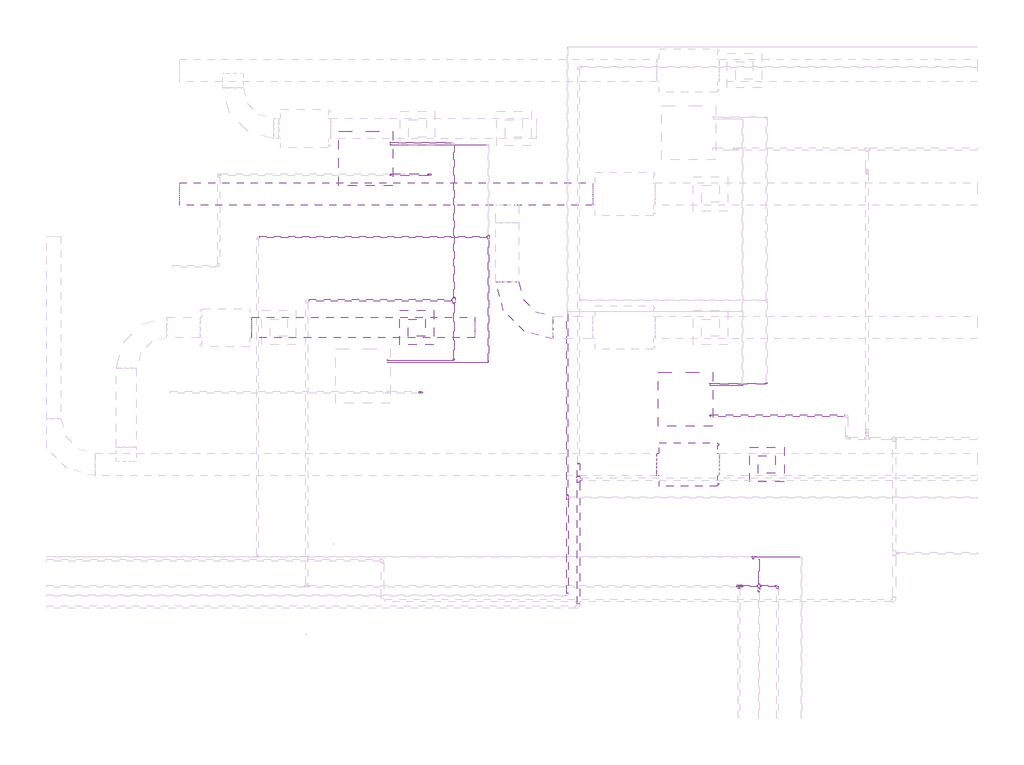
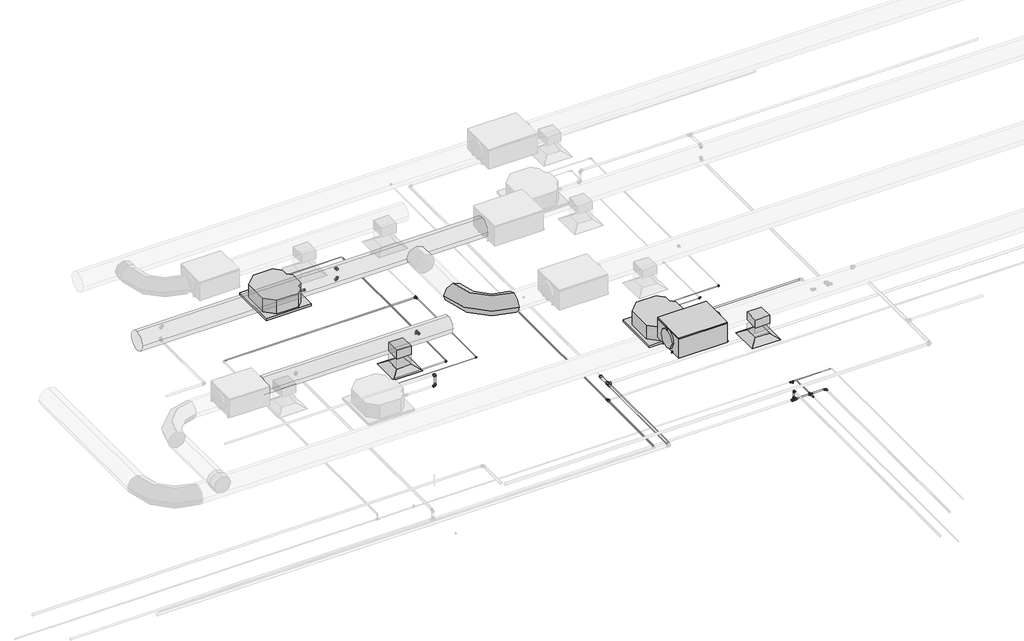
# One storey, part 15 of 21: 37 pipe fittings, 25 pipe segments, 4 duct segments, 3 duct fittings, 3 proxies, 2 air terminals.
"""IFC4 building model written with IfcOpenShell, lengths in millimetres."""

from ifc_helpers import new_model, si_unit, point, frame, frame_2d, origin, place, context, project, spatial, polyline, circle_curve, trimmed, segment, composite_curve, outline, extrude, transform, mapped, element, save
from components import air_terminal_ff221211, mechanical_equipment_53173f38, fh_fh_400_6e0c7af0, duct_fitting_95c1ddea, duct_fitting_550a0fe9, duct_fitting_2_d_33ab650d, pipe_fitting_e2d793b1, pipe_fitting_535881cf, pipe_fitting_752db109, pipe_fitting_630650c0, pipe_fitting_3f76be59, pipe_fitting_e567efff, pipe_fitting_aa3f564d, pipe_fitting_d2aaae93, pipe_fitting_8f6b33cf, pipe_fitting_65e16ea6, pipe_fitting_e6d02d16, pipe_fitting_418687aa, pipe_fitting_5f661cd3, pipe_fitting_8aefc26a, pipe_fitting_3ec2dfac, pipe_fitting_fefc82c8, pipe_fitting_c900cfc2, pipe_fitting_16c020f5, pipe_fitting_09966660, pipe_fitting_501e5992, pipe_fitting_59d1f3e3, pipe_fitting_648138cd, pipe_fitting_58ab9b66, pipe_fitting_bf9d9dba, pipe_fitting_af483176

model = new_model("IFC4")

# Units and contexts
model_context = context("Model", 3, world=origin())
ifc_project = project(units=[si_unit("LENGTHUNIT", "METRE", prefix="MILLI")], contexts=[model_context])

# Site, building, storey
site = spatial("IfcSite", under=ifc_project)
building = spatial("IfcBuilding", under=site)
storey = spatial("IfcBuildingStorey", under=building, Name="Nível 1", Elevation=0.0)

# Air terminals
placement = place(None, origin())
air_terminal_shape = air_terminal_ff221211(model_context)
element("IfcAirTerminal", 1, ObjectType="M_Difusor de retorno : 600 x 600 Face 300 x 300 Conexão", at=placement, inside=storey, context=model_context, shape_type="MappedRepresentation", body=[
    mapped(air_terminal_shape, transform((7561.4781645, 2283.4261027, 3000.0), x_axis=(0.0, -1.0, 0.0), y_axis=(1.0, 0.0, 0.0), z_axis=(0.0, 0.0, 1.0))),
])
element("IfcAirTerminal", 2, ObjectType="M_Difusor de retorno : 600 x 600 Face 300 x 300 Conexão", at=placement, inside=storey, context=model_context, shape_type="MappedRepresentation", body=[
    mapped(air_terminal_shape, transform((1430.9255464, 4681.9327662, 3000.0), x_axis=(0.0, -1.0, 0.0), y_axis=(1.0, 0.0, 0.0), z_axis=(0.0, 0.0, 1.0))),
])

# Proxies
mechanical_equipment_shape = mechanical_equipment_53173f38(model_context)
element("IfcBuildingElementProxy", 3, Name="Midea_VRF_Indoor_4-way Cassette_MI-90(100,112,140)Q4_DHN1-D (2nd DC) : MI2-100Q4DHN1", ObjectType="Midea_VRF_Indoor_4-way Cassette_MI-90(100,112,140)Q4_DHN1-D (2nd DC) : MI2-100Q4DHN1", at=placement, inside=storey, context=model_context, shape_type="MappedRepresentation", body=[
    mapped(mechanical_equipment_shape, transform((535.9443928, 7643.6930389, 3000.0), x_axis=(1.0, 0.0, 0.0), y_axis=(0.0, 1.0, 0.0), z_axis=(0.0, 0.0, 1.0))),
])
element("IfcBuildingElementProxy", 4, Name="Midea_VRF_Indoor_4-way Cassette_MI-90(100,112,140)Q4_DHN1-D (2nd DC) : MI2-112Q4DHN1", ObjectType="Midea_VRF_Indoor_4-way Cassette_MI-90(100,112,140)Q4_DHN1-D (2nd DC) : MI2-112Q4DHN1", at=placement, inside=storey, context=model_context, shape_type="MappedRepresentation", body=[
    mapped(mechanical_equipment_shape, transform((6136.4781645, 3426.4200133, 3000.0), x_axis=(1.0, 0.0, 0.0), y_axis=(0.0, 1.0, 0.0), z_axis=(0.0, 0.0, 1.0))),
])
fh_fh_400_shape = fh_fh_400_6e0c7af0(model_context)
element("IfcBuildingElementProxy", 5, Name="FH : FH 400", ObjectType="FH : FH 400", at=placement, inside=storey, context=model_context, shape_type="MappedRepresentation", body=[
    mapped(fh_fh_400_shape, transform((6183.0801877, 2283.4261027, 3400.0), x_axis=(0.0, 1.0, 0.0), y_axis=(-1.0, 0.0, 0.0), z_axis=(0.0, 0.0, 1.0))),
])

# Duct fittings
duct_fitting_shape = duct_fitting_95c1ddea(model_context)
element("IfcDuctFitting", 6, ObjectType="M_Encaixe de duto retangular : Padrão", at=placement, inside=storey, context=model_context, shape_type="MappedRepresentation", body=[
    mapped(duct_fitting_shape, transform((7561.4781645, 2283.4261027, 3421.0), x_axis=(0.0, 0.0, -1.0), y_axis=(-1.0, 0.0, 0.0), z_axis=(0.0, 1.0, 0.0))),
])
duct_fitting_2_shape = duct_fitting_550a0fe9(model_context)
element("IfcDuctFitting", 7, ObjectType="M_Encaixe de duto retangular : Padrão", at=placement, inside=storey, context=model_context, shape_type="MappedRepresentation", body=[
    mapped(duct_fitting_2_shape, transform((1430.9255464, 4681.9327662, 3427.5), x_axis=(0.0, 0.0, -1.0), y_axis=(-1.0, 0.0, 0.0), z_axis=(0.0, 1.0, 0.0))),
])
duct_fitting_2_d_shape = duct_fitting_2_d_33ab650d(model_context)
element("IfcDuctFitting", 8, ObjectType="M_Cotovelo redondo : 2 D", at=placement, inside=storey, context=model_context, shape_type="MappedRepresentation", body=[
    mapped(duct_fitting_2_d_shape, transform((3013.3899244, 4681.9327662, 3621.0), x_axis=(0.0, -1.0, 0.0), y_axis=(1.0, 0.0, 0.0), z_axis=(0.0, 0.0, 1.0))),
])

# Duct segments
element("IfcDuctSegment", 9, ObjectType="Torneiras / Raio curto", at=placement, inside=storey, context=model_context, shape_type="SweptSolid", body=[
    extrude(outline(composite_curve([segment(trimmed(circle_curve(frame_2d((7022.5342821, 3621.0)), 200.0), [point((7222.5342821, 3621.0))], [point((7022.5342821, 3421.0))], False, "CARTESIAN"), True, "CONTINUOUS"), segment(trimmed(circle_curve(frame_2d((7022.5342821, 3621.0)), 200.0), [point((7022.5342821, 3421.0))], [point((6822.5342821, 3621.0))], False, "CARTESIAN"), True, "CONTINUOUS"), segment(trimmed(circle_curve(frame_2d((7022.5342821, 3621.0)), 200.0), [point((6822.5342821, 3621.0))], [point((7022.5342821, 3821.0))], False, "CARTESIAN"), True, "CONTINUOUS"), segment(trimmed(circle_curve(frame_2d((7022.5342821, 3621.0)), 200.0), [point((7022.5342821, 3821.0))], [point((7222.5342821, 3621.0))], False, "CARTESIAN"), True, "CONTINUOUS")], self_intersect=False)), frame((-2725.4857997, 0.0, 0.0), z_axis=(1.0, 0.0, 0.0), x_axis=(0.0, 1.0, 0.0)), (0.0, 0.0, 1.0), 7238.8757241),
])
element("IfcDuctSegment", 10, ObjectType="Raios cotovelos / torneiras", at=placement, inside=storey, context=model_context, shape_type="SweptSolid", body=[
    extrude(outline(polyline([(7711.4781645, 2133.4261027), (7411.4781645, 2133.4261027), (7411.4781645, 2433.4261027), (7711.4781645, 2433.4261027), (7711.4781645, 2133.4261027)])), frame((0.0, 0.0, 3101.6), z_axis=(0.0, 0.0, 1.0), x_axis=(1.0, 0.0, 0.0)), (0.0, 0.0, 1.0), 217.8),
])
element("IfcDuctSegment", 11, ObjectType="Torneiras / Raio curto", at=placement, inside=storey, context=model_context, shape_type="SweptSolid", body=[
    extrude(outline(composite_curve([segment(trimmed(circle_curve(frame_2d((4681.9327662, 3605.0)), 177.5), [point((4504.4327662, 3605.0))], [point((4681.9327662, 3782.5))], False, "CARTESIAN"), True, "CONTINUOUS"), segment(trimmed(circle_curve(frame_2d((4681.9327662, 3605.0)), 177.5), [point((4681.9327662, 3782.5))], [point((4859.4327662, 3605.0))], False, "CARTESIAN"), True, "CONTINUOUS"), segment(trimmed(circle_curve(frame_2d((4681.9327662, 3605.0)), 177.5), [point((4859.4327662, 3605.0))], [point((4681.9327662, 3427.5))], False, "CARTESIAN"), True, "CONTINUOUS"), segment(trimmed(circle_curve(frame_2d((4681.9327662, 3605.0)), 177.5), [point((4681.9327662, 3427.5))], [point((4504.4327662, 3605.0))], False, "CARTESIAN"), True, "CONTINUOUS")], self_intersect=False)), frame((-1458.9060918, 0.0, 0.0), z_axis=(1.0, 0.0, 0.0), x_axis=(0.0, 1.0, 0.0)), (0.0, 0.0, 1.0), 3900.0),
])
element("IfcDuctSegment", 12, ObjectType="Raios cotovelos / torneiras", at=placement, inside=storey, context=model_context, shape_type="SweptSolid", body=[
    extrude(outline(polyline([(1580.9255464, 4531.9327662), (1280.9255464, 4531.9327662), (1280.9255464, 4831.9327662), (1580.9255464, 4831.9327662), (1580.9255464, 4531.9327662)])), frame((0.0, 0.0, 3101.6), z_axis=(0.0, 0.0, 1.0), x_axis=(1.0, 0.0, 0.0)), (0.0, 0.0, 1.0), 224.3),
])

# Pipe fittings
pipe_fitting_shape = pipe_fitting_e2d793b1(model_context)
element("IfcPipeFitting", 13, ObjectType="Bucha de redução reta - Soldada - CU : Padrão", at=placement, inside=storey, context=model_context, shape_type="MappedRepresentation", body=[
    mapped(pipe_fitting_shape, transform((960.9443928, 7358.6930389, 3252.3085101), x_axis=(1.0, 0.0, 0.0), y_axis=(0.0, 1.0, 0.0), z_axis=(0.0, 0.0, 1.0))),
])
element("IfcPipeFitting", 14, ObjectType="Bucha de redução reta - Soldada - CU : Padrão", at=placement, inside=storey, context=model_context, shape_type="MappedRepresentation", body=[
    mapped(pipe_fitting_shape, transform((6561.4781645, 3141.4200133, 3252.3085101), x_axis=(1.0, 0.0, 0.0), y_axis=(0.0, 1.0, 0.0), z_axis=(0.0, 0.0, 1.0))),
])
pipe_fitting_2_shape = pipe_fitting_535881cf(model_context)
element("IfcPipeFitting", 15, ObjectType="Cotovelo - Soldado - CU : Padrão", at=placement, inside=storey, context=model_context, shape_type="MappedRepresentation", body=[
    mapped(pipe_fitting_2_shape, transform((1512.5410392, 3547.7051078, 3500.0), x_axis=(0.0, 0.0, 1.0), y_axis=(-1.0, 0.0, 0.0), z_axis=(0.0, -1.0, 0.0))),
])
element("IfcPipeFitting", 16, ObjectType="Cotovelo - Soldado - CU : Padrão", at=placement, inside=storey, context=model_context, shape_type="MappedRepresentation", body=[
    mapped(pipe_fitting_2_shape, transform((1660.9443928, 7358.6930389, 3500.0), x_axis=(0.0, 0.0, 1.0), y_axis=(-1.0, 0.0, 0.0), z_axis=(0.0, -1.0, 0.0))),
])
pipe_fitting_3_shape = pipe_fitting_752db109(model_context)
element("IfcPipeFitting", 17, ObjectType="Cotovelo - Soldado - CU : Padrão", at=placement, inside=storey, context=model_context, shape_type="MappedRepresentation", body=[
    mapped(pipe_fitting_3_shape, transform((1512.5410392, 3547.7051078, 3252.3), x_axis=(0.9999999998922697, 0.0, -1.4678579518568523e-05), y_axis=(1.4678579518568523e-05, 0.0, 0.9999999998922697), z_axis=(0.0, -1.0, 0.0))),
])
pipe_fitting_4_shape = pipe_fitting_630650c0(model_context)
element("IfcPipeFitting", 18, ObjectType="Cotovelo - Soldado - CU : Padrão", at=placement, inside=storey, context=model_context, shape_type="MappedRepresentation", body=[
    mapped(pipe_fitting_4_shape, transform((1660.9443928, 7358.6930389, 3252.3), x_axis=(0.9999999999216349, 0.0, -1.2519202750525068e-05), y_axis=(1.2519202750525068e-05, 0.0, 0.9999999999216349), z_axis=(0.0, -1.0, 0.0))),
])
pipe_fitting_5_shape = pipe_fitting_3f76be59(model_context)
element("IfcPipeFitting", 19, ObjectType="Tê - Soldado - CU : Padrão", at=placement, inside=storey, context=model_context, shape_type="MappedRepresentation", body=[
    mapped(pipe_fitting_5_shape, transform((4261.4781645, 2025.308811, 3252.3), x_axis=(0.0, -1.0, 0.0), y_axis=(-0.9999998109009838, 0.0, 0.0006149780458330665), z_axis=(-0.0006149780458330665, 0.0, -0.9999998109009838))),
])
pipe_fitting_6_shape = pipe_fitting_e567efff(model_context)
element("IfcPipeFitting", 20, ObjectType="Bucha de redução reta - Soldada - CU : Padrão", at=placement, inside=storey, context=model_context, shape_type="MappedRepresentation", body=[
    mapped(pipe_fitting_6_shape, transform((2688.5154392, 6301.3866082, 3146.844766), x_axis=(0.0, 0.9999999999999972, -7.527757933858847e-08), y_axis=(-0.999999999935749, 0.0, 1.1335879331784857e-05), z_axis=(1.133587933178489e-05, 7.52775793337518e-08, 0.9999999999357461))),
])
pipe_fitting_7_shape = pipe_fitting_aa3f564d(model_context)
element("IfcPipeFitting", 21, ObjectType="Tê - Soldado - CU : Padrão", at=placement, inside=storey, context=model_context, shape_type="MappedRepresentation", body=[
    mapped(pipe_fitting_7_shape, transform((7074.9048328, 153.7608365, 3052.3), x_axis=(-1.0, 0.0, 0.0), y_axis=(0.0, 0.0, -1.0), z_axis=(0.0, -1.0, 0.0))),
])
element("IfcPipeFitting", 22, ObjectType="Tê - Soldado - CU : Padrão", at=placement, inside=storey, context=model_context, shape_type="MappedRepresentation", body=[
    mapped(pipe_fitting_7_shape, transform((2081.0820392, 5160.3854214, 3252.3003522), x_axis=(0.0, -0.999999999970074, 7.736412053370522e-06), y_axis=(0.9999999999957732, -2.2494228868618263e-11, -2.9075789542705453e-06), z_axis=(2.907578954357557e-06, 7.73641205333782e-06, 0.999999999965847))),
])
pipe_fitting_8_shape = pipe_fitting_d2aaae93(model_context)
element("IfcPipeFitting", 23, ObjectType="Bucha de redução reta - Soldada - CU : Padrão", at=placement, inside=storey, context=model_context, shape_type="MappedRepresentation", body=[
    mapped(pipe_fitting_8_shape, transform((2081.0820392, 5205.9159214, 3252.3), x_axis=(0.0, 0.999999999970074, -7.736412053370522e-06), y_axis=(-0.9999999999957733, 2.2494228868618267e-11, 2.9075789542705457e-06), z_axis=(2.9075789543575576e-06, 7.73641205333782e-06, 0.9999999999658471))),
])
element("IfcPipeFitting", 24, ObjectType="Bucha de redução reta - Soldada - CU : Padrão", at=placement, inside=storey, context=model_context, shape_type="MappedRepresentation", body=[
    mapped(pipe_fitting_8_shape, transform((2081.0820392, 5114.8549214, 3252.3007045), x_axis=(0.0, -0.999999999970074, 7.736412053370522e-06), y_axis=(0.9999999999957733, -2.2494228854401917e-11, -2.9075789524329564e-06), z_axis=(2.9075789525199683e-06, 7.73641205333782e-06, 0.9999999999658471))),
])
pipe_fitting_9_shape = pipe_fitting_8f6b33cf(model_context)
element("IfcPipeFitting", 25, ObjectType="Bucha de redução reta - Soldada - CU : Padrão", at=placement, inside=storey, context=model_context, shape_type="MappedRepresentation", body=[
    mapped(pipe_fitting_9_shape, transform((7074.9048328, 153.7608365, 3097.891), x_axis=(0.0, 0.0, 1.0), y_axis=(1.0, 0.0, 0.0), z_axis=(0.0, 1.0, 0.0))),
])
pipe_fitting_10_shape = pipe_fitting_65e16ea6(model_context)
element("IfcPipeFitting", 26, ObjectType="Bucha de redução reta - Soldada - CU : Padrão", at=placement, inside=storey, context=model_context, shape_type="MappedRepresentation", body=[
    mapped(pipe_fitting_10_shape, transform((7120.4353328, 153.7608365, 3052.3), x_axis=(1.0, 0.0, 0.0), y_axis=(0.0, 1.0, 0.0), z_axis=(0.0, 0.0, 1.0))),
])
pipe_fitting_11_shape = pipe_fitting_e6d02d16(model_context)
element("IfcPipeFitting", 27, ObjectType="Bucha de redução reta - Soldada - CU : Padrão", at=placement, inside=storey, context=model_context, shape_type="MappedRepresentation", body=[
    mapped(pipe_fitting_11_shape, transform((7324.7363367, 635.9191084, 3046.8), x_axis=(0.0, -1.0, 0.0), y_axis=(1.0, 0.0, 0.0), z_axis=(0.0, 0.0, 1.0))),
])
element("IfcPipeFitting", 28, ObjectType="Bucha de redução reta - Soldada - CU : Padrão", at=placement, inside=storey, context=model_context, shape_type="MappedRepresentation", body=[
    mapped(pipe_fitting_11_shape, transform((7354.9315867, 666.0796084, 3046.8), x_axis=(1.0, 0.0, 0.0), y_axis=(0.0, 1.0, 0.0), z_axis=(0.0, 0.0, 1.0))),
])
pipe_fitting_12_shape = pipe_fitting_418687aa(model_context)
element("IfcPipeFitting", 29, ObjectType="Cruzeta - Soldada - CU : Padrão", at=placement, inside=storey, context=model_context, shape_type="MappedRepresentation", body=[
    mapped(pipe_fitting_12_shape, transform((7424.7363367, 153.755765, 3052.3), x_axis=(-1.0, 0.0, 0.0), y_axis=(0.0, 0.9999994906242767, -0.0010093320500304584), z_axis=(0.0, -0.0010093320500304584, -0.9999994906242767))),
])
pipe_fitting_13_shape = pipe_fitting_5f661cd3(model_context)
element("IfcPipeFitting", 30, ObjectType="Bucha de redução reta - Soldada - CU : Padrão", at=placement, inside=storey, context=model_context, shape_type="MappedRepresentation", body=[
    mapped(pipe_fitting_13_shape, transform((7424.7363367, 188.2357475, 3052.2651982), x_axis=(0.0, 0.9999994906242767, -0.0010093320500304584), y_axis=(-1.0000000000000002, 0.0, 0.0), z_axis=(0.0, 0.0010093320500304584, 0.9999994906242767))),
])
element("IfcPipeFitting", 31, ObjectType="Bucha de redução reta - Soldada - CU : Padrão", at=placement, inside=storey, context=model_context, shape_type="MappedRepresentation", body=[
    mapped(pipe_fitting_13_shape, transform((7424.7363367, 57.3068347, 3052.397349), x_axis=(0.0, -0.9999994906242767, 0.0010093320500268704), y_axis=(1.0000000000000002, 0.0, 0.0), z_axis=(0.0, 0.0010093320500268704, 0.9999994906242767))),
])
pipe_fitting_14_shape = pipe_fitting_8aefc26a(model_context)
element("IfcPipeFitting", 32, ObjectType="Tê - Soldado - CU : Padrão", at=placement, inside=storey, context=model_context, shape_type="MappedRepresentation", body=[
    mapped(pipe_fitting_14_shape, transform((2688.5154392, 6266.0796082, 3146.8447687), x_axis=(0.0, -0.9999999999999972, 7.527757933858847e-08), y_axis=(0.9999999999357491, 0.0, -1.1335879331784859e-05), z_axis=(1.1335879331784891e-05, 7.52775793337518e-08, 0.9999999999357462))),
])
element("IfcPipeFitting", 33, ObjectType="Tê - Soldado - CU : Padrão", at=placement, inside=storey, context=model_context, shape_type="MappedRepresentation", body=[
    mapped(pipe_fitting_14_shape, transform((4067.8281628, 1706.2287572, 3146.8), x_axis=(0.0, -1.0, 0.0), y_axis=(-1.0, 0.0, 0.0), z_axis=(0.0, 0.0, -1.0))),
])
pipe_fitting_15_shape = pipe_fitting_3ec2dfac(model_context)
element("IfcPipeFitting", 34, ObjectType="Bucha de redução reta - Soldada - CU : Padrão", at=placement, inside=storey, context=model_context, shape_type="MappedRepresentation", body=[
    mapped(pipe_fitting_15_shape, transform((4261.4781645, 2294.0534778, 3252.3), x_axis=(0.0, 1.0, 0.0), y_axis=(-1.0, 0.0, 0.0), z_axis=(0.0, 0.0, 1.0))),
])
pipe_fitting_16_shape = pipe_fitting_fefc82c8(model_context)
element("IfcPipeFitting", 35, ObjectType="Cotovelo - Soldado - CU : Padrão", at=placement, inside=storey, context=model_context, shape_type="MappedRepresentation", body=[
    mapped(pipe_fitting_16_shape, transform((7747.1766922, 153.7608365, 3052.3), x_axis=(0.0, 1.0, 0.0), y_axis=(-1.0, 0.0, 0.0), z_axis=(0.0, 0.0, 1.0))),
])
element("IfcPipeFitting", 36, ObjectType="Cotovelo - Soldado - CU : Padrão", at=placement, inside=storey, context=model_context, shape_type="MappedRepresentation", body=[
    mapped(pipe_fitting_16_shape, transform((7074.9048355, 153.7608365, 3252.7945252), x_axis=(0.0, 0.0, 1.0), y_axis=(0.0, -1.0, 0.0), z_axis=(1.0, 0.0, 0.0))),
])
pipe_fitting_17_shape = pipe_fitting_c900cfc2(model_context)
element("IfcPipeFitting", 37, ObjectType="Bucha de redução reta - Soldada - CU : Padrão", at=placement, inside=storey, context=model_context, shape_type="MappedRepresentation", body=[
    mapped(pipe_fitting_17_shape, transform((960.9443928, 7916.9038526, 3252.3085101), x_axis=(1.0, 0.0, 0.0), y_axis=(0.0, 1.0, 0.0), z_axis=(0.0, 0.0, 1.0))),
])
pipe_fitting_18_shape = pipe_fitting_16c020f5(model_context)
element("IfcPipeFitting", 38, ObjectType="Cotovelo - Soldado - CU : Padrão", at=placement, inside=storey, context=model_context, shape_type="MappedRepresentation", body=[
    mapped(pipe_fitting_18_shape, transform((2081.0820392, 4105.9159214, 3252.3085101), x_axis=(1.0, 0.0, 0.0), y_axis=(0.0, 0.9999999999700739, -7.736412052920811e-06), z_axis=(0.0, 7.736412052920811e-06, 0.9999999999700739))),
])
element("IfcPipeFitting", 39, ObjectType="Cotovelo - Soldado - CU : Padrão", at=placement, inside=storey, context=model_context, shape_type="MappedRepresentation", body=[
    mapped(pipe_fitting_18_shape, transform((7561.4781645, 3699.630827, 3252.3085101), x_axis=(0.9999999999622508, 0.0, -8.688993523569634e-06), y_axis=(0.0, 1.0000000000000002, 0.0), z_axis=(8.688993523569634e-06, 0.0, 0.9999999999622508))),
])
pipe_fitting_19_shape = pipe_fitting_09966660(model_context)
element("IfcPipeFitting", 40, ObjectType="Tê - Soldado - CU : Padrão", at=placement, inside=storey, context=model_context, shape_type="MappedRepresentation", body=[
    mapped(pipe_fitting_19_shape, transform((7324.7363367, 666.0796084, 3046.8), x_axis=(-1.0, 0.0, 0.0), y_axis=(0.0, 1.0, 0.0), z_axis=(0.0, 0.0, -1.0))),
])
pipe_fitting_20_shape = pipe_fitting_501e5992(model_context)
element("IfcPipeFitting", 41, ObjectType="Bucha de redução reta - Soldada - CU : Padrão", at=placement, inside=storey, context=model_context, shape_type="MappedRepresentation", body=[
    mapped(pipe_fitting_20_shape, transform((925.1999392, 4105.9159214, 3252.3085101), x_axis=(-1.0, 0.0, 0.0), y_axis=(0.0, -1.0, 0.0), z_axis=(0.0, 0.0, 1.0))),
])
element("IfcPipeFitting", 42, ObjectType="Bucha de redução reta - Soldada - CU : Padrão", at=placement, inside=storey, context=model_context, shape_type="MappedRepresentation", body=[
    mapped(pipe_fitting_20_shape, transform((6574.1370645, 3699.630827, 3252.3085101), x_axis=(-0.9999999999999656, 0.0, -2.6273447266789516e-07), y_axis=(0.0, -1.0000000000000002, 0.0), z_axis=(-2.6273447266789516e-07, 0.0, 0.9999999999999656))),
])
pipe_fitting_21_shape = pipe_fitting_59d1f3e3(model_context)
element("IfcPipeFitting", 43, ObjectType="Bucha de redução reta - Soldada - CU : Padrão", at=placement, inside=storey, context=model_context, shape_type="MappedRepresentation", body=[
    mapped(pipe_fitting_21_shape, transform((912.5410392, 4072.1134796, 3146.8446487), x_axis=(1.0, 0.0, 0.0), y_axis=(0.0, 1.0, 0.0), z_axis=(0.0, 0.0, 1.0))),
])
element("IfcPipeFitting", 44, ObjectType="Bucha de redução reta - Soldada - CU : Padrão", at=placement, inside=storey, context=model_context, shape_type="MappedRepresentation", body=[
    mapped(pipe_fitting_21_shape, transform((960.9443928, 7883.1014107, 3146.8446487), x_axis=(1.0, 0.0, 0.0), y_axis=(0.0, 1.0, 0.0), z_axis=(0.0, 0.0, 1.0))),
])
pipe_fitting_22_shape = pipe_fitting_648138cd(model_context)
element("IfcPipeFitting", 45, ObjectType="Cotovelo - Soldado - CU : Padrão", at=placement, inside=storey, context=model_context, shape_type="MappedRepresentation", body=[
    mapped(pipe_fitting_22_shape, transform((2688.5154392, 4072.1134796, 3146.8446487), x_axis=(1.0, 0.0, 0.0), y_axis=(0.0, 0.9999999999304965, 1.1790122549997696e-05), z_axis=(0.0, -1.1790122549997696e-05, 0.9999999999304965))),
])
element("IfcPipeFitting", 46, ObjectType="Cotovelo - Soldado - CU : Padrão", at=placement, inside=storey, context=model_context, shape_type="MappedRepresentation", body=[
    mapped(pipe_fitting_22_shape, transform((7137.4525629, 3665.8283851, 3146.8018172), x_axis=(0.9999999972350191, 0.0, -7.436371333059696e-05), y_axis=(-3.085168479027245e-11, 0.999999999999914, -4.1487552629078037e-07), z_axis=(7.436371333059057e-05, 4.1487552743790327e-07, 0.999999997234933))),
])
pipe_fitting_23_shape = pipe_fitting_58ab9b66(model_context)
element("IfcPipeFitting", 47, ObjectType="Bucha de redução reta - Soldada - CU : Padrão", at=placement, inside=storey, context=model_context, shape_type="MappedRepresentation", body=[
    mapped(pipe_fitting_23_shape, transform((6571.1525645, 3665.8283851, 3146.8439293), x_axis=(-0.9999999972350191, 0.0, 7.436371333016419e-05), y_axis=(0.0, -1.0, 0.0), z_axis=(7.436371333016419e-05, 0.0, 0.9999999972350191))),
])
pipe_fitting_24_shape = pipe_fitting_bf9d9dba(model_context)
element("IfcPipeFitting", 48, ObjectType="Bucha de redução reta - Soldada - CU : Padrão", at=placement, inside=storey, context=model_context, shape_type="MappedRepresentation", body=[
    mapped(pipe_fitting_24_shape, transform((4067.8281628, 1741.5357572, 3146.8), x_axis=(0.0, 1.0, 0.0), y_axis=(-1.0, 0.0, 0.0), z_axis=(0.0, 0.0, 1.0))),
])
pipe_fitting_25_shape = pipe_fitting_af483176(model_context)
element("IfcPipeFitting", 49, ObjectType="Bucha de redução reta - Soldada - CU : Padrão", at=placement, inside=storey, context=model_context, shape_type="MappedRepresentation", body=[
    mapped(pipe_fitting_25_shape, transform((7161.4781628, 3689.8539851, 3146.8), x_axis=(0.0, 1.0, 0.0), y_axis=(-0.999999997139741, 0.0, 7.563410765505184e-05), z_axis=(7.563410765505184e-05, 0.0, 0.999999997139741))),
])

# Pipe segments
element("IfcPipeSegment", 50, ObjectType="Tubos de cobre HVAC", at=placement, inside=storey, context=model_context, shape_type="SweptSolid", body=[
    extrude(outline(composite_curve([segment(trimmed(circle_curve(frame_2d((4105.9159214, 3252.3085101)), 7.935), [point((4097.9809214, 3252.3085101))], [point((4105.9159214, 3260.2435101))], False, "CARTESIAN"), True, "CONTINUOUS"), segment(trimmed(circle_curve(frame_2d((4105.9159214, 3252.3085101)), 7.935), [point((4105.9159214, 3260.2435101))], [point((4113.8509214, 3252.3085101))], False, "CARTESIAN"), True, "CONTINUOUS"), segment(trimmed(circle_curve(frame_2d((4105.9159214, 3252.3085101)), 7.935), [point((4113.8509214, 3252.3085101))], [point((4105.9159214, 3244.3735101))], False, "CARTESIAN"), True, "CONTINUOUS"), segment(trimmed(circle_curve(frame_2d((4105.9159214, 3252.3085101)), 7.935), [point((4105.9159214, 3244.3735101))], [point((4097.9809214, 3252.3085101))], False, "CARTESIAN"), True, "CONTINUOUS")], self_intersect=False)), frame((925.1999392, 0.0, 0.0), z_axis=(1.0, 0.0, 0.0), x_axis=(0.0, 1.0, 0.0)), (0.0, 0.0, 1.0), 1126.9035),
])
element("IfcPipeSegment", 51, ObjectType="Tubos de cobre HVAC", at=placement, inside=storey, context=model_context, shape_type="SweptSolid", body=[
    extrude(outline(composite_curve([segment(trimmed(circle_curve(frame_2d((0.0, -7.935)), 7.935), [point((-7.935, -7.935))], [point((0.0, 0.0))], False, "CARTESIAN"), True, "CONTINUOUS"), segment(trimmed(circle_curve(frame_2d((0.0, -7.935)), 7.935), [point((0.0, 0.0))], [point((7.935, -7.935))], False, "CARTESIAN"), True, "CONTINUOUS"), segment(trimmed(circle_curve(frame_2d((0.0, -7.935)), 7.935), [point((7.935, -7.935))], [point((0.0, -15.8699999))], False, "CARTESIAN"), True, "CONTINUOUS"), segment(trimmed(circle_curve(frame_2d((0.0, -7.935)), 7.935), [point((0.0, -15.8699999))], [point((-7.935, -7.935))], False, "CARTESIAN"), True, "CONTINUOUS")], self_intersect=False)), frame((2052.103228, 7916.9038526, 3244.3447982), z_axis=(-0.9999999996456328, 0.0, 2.6622066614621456e-05), x_axis=(0.0, 1.0, 0.0)), (0.0, 0.0, 1.0), 1078.5001468),
])
element("IfcPipeSegment", 52, ObjectType="Tubos de cobre HVAC", at=placement, inside=storey, context=model_context, shape_type="SweptSolid", body=[
    extrude(outline(composite_curve([segment(trimmed(circle_curve(frame_2d((4072.1134796, 3146.8446487)), 4.76), [point((4067.3534796, 3146.8446487))], [point((4072.1134796, 3151.6046487))], False, "CARTESIAN"), True, "CONTINUOUS"), segment(trimmed(circle_curve(frame_2d((4072.1134796, 3146.8446487)), 4.76), [point((4072.1134796, 3151.6046487))], [point((4076.8734796, 3146.8446487))], False, "CARTESIAN"), True, "CONTINUOUS"), segment(trimmed(circle_curve(frame_2d((4072.1134796, 3146.8446487)), 4.76), [point((4076.8734796, 3146.8446487))], [point((4072.1134796, 3142.0846487))], False, "CARTESIAN"), True, "CONTINUOUS"), segment(trimmed(circle_curve(frame_2d((4072.1134796, 3146.8446487)), 4.76), [point((4072.1134796, 3142.0846487))], [point((4067.3534796, 3146.8446487))], False, "CARTESIAN"), True, "CONTINUOUS")], self_intersect=False)), frame((922.2154392, 0.0, 0.0), z_axis=(1.0, 0.0, 0.0), x_axis=(0.0, 1.0, 0.0)), (0.0, 0.0, 1.0), 1742.2744),
])
element("IfcPipeSegment", 53, ObjectType="Tubos de cobre HVAC", at=placement, inside=storey, context=model_context, shape_type="SweptSolid", body=[
    extrude(outline(composite_curve([segment(trimmed(circle_curve(frame_2d((7883.1014107, 3146.8446487)), 4.76), [point((7878.3414107, 3146.8446487))], [point((7883.1014107, 3151.6046487))], False, "CARTESIAN"), True, "CONTINUOUS"), segment(trimmed(circle_curve(frame_2d((7883.1014107, 3146.8446487)), 4.76), [point((7883.1014107, 3151.6046487))], [point((7887.8614107, 3146.8446487))], False, "CARTESIAN"), True, "CONTINUOUS"), segment(trimmed(circle_curve(frame_2d((7883.1014107, 3146.8446487)), 4.76), [point((7887.8614107, 3146.8446487))], [point((7883.1014107, 3142.0846487))], False, "CARTESIAN"), True, "CONTINUOUS"), segment(trimmed(circle_curve(frame_2d((7883.1014107, 3146.8446487)), 4.76), [point((7883.1014107, 3142.0846487))], [point((7878.3414107, 3146.8446487))], False, "CARTESIAN"), True, "CONTINUOUS")], self_intersect=False)), frame((970.6187928, 0.0, 0.0), z_axis=(1.0, 0.0, 0.0), x_axis=(0.0, 1.0, 0.0)), (0.0, 0.0, 1.0), 1693.8710464),
])
element("IfcPipeSegment", 54, ObjectType="Tubos de cobre HVAC", at=placement, inside=storey, context=model_context, shape_type="SweptSolid", body=[
    extrude(outline(composite_curve([segment(trimmed(circle_curve(frame_2d((1512.5410392, 3547.7051078)), 17.5), [point((1530.0410392, 3547.7051078))], [point((1512.5410392, 3530.2051078))], False, "CARTESIAN"), True, "CONTINUOUS"), segment(trimmed(circle_curve(frame_2d((1512.5410392, 3547.7051078)), 17.5), [point((1512.5410392, 3530.2051078))], [point((1495.0410392, 3547.7051078))], False, "CARTESIAN"), True, "CONTINUOUS"), segment(trimmed(circle_curve(frame_2d((1512.5410392, 3547.7051078)), 17.5), [point((1495.0410392, 3547.7051078))], [point((1512.5410392, 3565.2051078))], False, "CARTESIAN"), True, "CONTINUOUS"), segment(trimmed(circle_curve(frame_2d((1512.5410392, 3547.7051078)), 17.5), [point((1512.5410392, 3565.2051078))], [point((1530.0410392, 3547.7051078))], False, "CARTESIAN"), True, "CONTINUOUS")], self_intersect=False)), frame((0.0, 0.0, 3293.9), z_axis=(0.0, 0.0, 1.0), x_axis=(1.0, 0.0, 0.0)), (0.0, 0.0, 1.0), 164.5),
])
element("IfcPipeSegment", 55, ObjectType="Tubos de cobre HVAC", at=placement, inside=storey, context=model_context, shape_type="SweptSolid", body=[
    extrude(outline(composite_curve([segment(trimmed(circle_curve(frame_2d((0.0, -17.5)), 17.5), [point((-17.5, -17.5))], [point((0.0, 0.0))], False, "CARTESIAN"), True, "CONTINUOUS"), segment(trimmed(circle_curve(frame_2d((0.0, -17.5)), 17.5), [point((0.0, 0.0))], [point((17.5, -17.5))], False, "CARTESIAN"), True, "CONTINUOUS"), segment(trimmed(circle_curve(frame_2d((0.0, -17.5)), 17.5), [point((17.5, -17.5))], [point((0.0, -35.0))], False, "CARTESIAN"), True, "CONTINUOUS"), segment(trimmed(circle_curve(frame_2d((0.0, -17.5)), 17.5), [point((0.0, -35.0))], [point((-17.5, -17.5))], False, "CARTESIAN"), True, "CONTINUOUS")], self_intersect=False)), frame((1619.3441737, 7358.6930389, 3234.8005208), z_axis=(-0.9999999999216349, 0.0, 1.2519202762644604e-05), x_axis=(0.0, 1.0, 0.0)), (0.0, 0.0, 1.0), 638.16),
])
element("IfcPipeSegment", 56, ObjectType="Tubos de cobre HVAC", at=placement, inside=storey, context=model_context, shape_type="SweptSolid", body=[
    extrude(outline(composite_curve([segment(trimmed(circle_curve(frame_2d((1660.9443928, 7358.6930389)), 17.5), [point((1678.4443928, 7358.6930389))], [point((1660.9443928, 7341.1930389))], False, "CARTESIAN"), True, "CONTINUOUS"), segment(trimmed(circle_curve(frame_2d((1660.9443928, 7358.6930389)), 17.5), [point((1660.9443928, 7341.1930389))], [point((1643.4443928, 7358.6930389))], False, "CARTESIAN"), True, "CONTINUOUS"), segment(trimmed(circle_curve(frame_2d((1660.9443928, 7358.6930389)), 17.5), [point((1643.4443928, 7358.6930389))], [point((1660.9443928, 7376.1930389))], False, "CARTESIAN"), True, "CONTINUOUS"), segment(trimmed(circle_curve(frame_2d((1660.9443928, 7358.6930389)), 17.5), [point((1660.9443928, 7376.1930389))], [point((1678.4443928, 7358.6930389))], False, "CARTESIAN"), True, "CONTINUOUS")], self_intersect=False)), frame((0.0, 0.0, 3293.9), z_axis=(0.0, 0.0, 1.0), x_axis=(1.0, 0.0, 0.0)), (0.0, 0.0, 1.0), 164.5),
])
element("IfcPipeSegment", 57, ObjectType="Tubos de cobre HVAC", at=placement, inside=storey, context=model_context, shape_type="SweptSolid", body=[
    extrude(outline(composite_curve([segment(trimmed(circle_curve(frame_2d((0.0, -17.5)), 17.5), [point((-17.5, -17.5))], [point((0.0, 0.0))], False, "CARTESIAN"), True, "CONTINUOUS"), segment(trimmed(circle_curve(frame_2d((0.0, -17.5)), 17.5), [point((0.0, 0.0))], [point((17.5, -17.5))], False, "CARTESIAN"), True, "CONTINUOUS"), segment(trimmed(circle_curve(frame_2d((0.0, -17.5)), 17.5), [point((17.5, -17.5))], [point((0.0, -35.0))], False, "CARTESIAN"), True, "CONTINUOUS"), segment(trimmed(circle_curve(frame_2d((0.0, -17.5)), 17.5), [point((0.0, -35.0))], [point((-17.5, -17.5))], False, "CARTESIAN"), True, "CONTINUOUS")], self_intersect=False)), frame((8919.8781019, 3141.4200133, 3234.8001488), z_axis=(-0.9999999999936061, 0.0, 3.576013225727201e-06), x_axis=(0.0, 1.0, 0.0)), (0.0, 0.0, 1.0), 2338.16),
])
element("IfcPipeSegment", 58, ObjectType="Tubos de cobre HVAC", at=placement, inside=storey, context=model_context, shape_type="SweptSolid", body=[
    extrude(outline(composite_curve([segment(trimmed(circle_curve(frame_2d((0.0, 14.0)), 14.0), [point((-14.0, 14.0))], [point((0.0, 28.0))], False, "CARTESIAN"), True, "CONTINUOUS"), segment(trimmed(circle_curve(frame_2d((0.0, 14.0)), 14.0), [point((0.0, 28.0))], [point((14.0, 14.0))], False, "CARTESIAN"), True, "CONTINUOUS"), segment(trimmed(circle_curve(frame_2d((0.0, 14.0)), 14.0), [point((14.0, 14.0))], [point((0.0, 0.0))], False, "CARTESIAN"), True, "CONTINUOUS"), segment(trimmed(circle_curve(frame_2d((0.0, 14.0)), 14.0), [point((0.0, 0.0))], [point((-14.0, 14.0))], False, "CARTESIAN"), True, "CONTINUOUS")], self_intersect=False)), frame((7459.0263367, 153.755765, 3038.3), z_axis=(0.9999999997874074, 2.0620024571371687e-05, 0.0), x_axis=(-2.0620024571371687e-05, 0.9999999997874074, 0.0)), (0.0, 0.0, 1.0), 245.9503555),
])
element("IfcPipeSegment", 59, ObjectType="Tubos de cobre HVAC", at=placement, inside=storey, context=model_context, shape_type="SweptSolid", body=[
    extrude(outline(composite_curve([segment(trimmed(circle_curve(frame_2d((666.0796084, 3046.8)), 6.35), [point((659.7296084, 3046.8))], [point((666.0796084, 3053.15))], False, "CARTESIAN"), True, "CONTINUOUS"), segment(trimmed(circle_curve(frame_2d((666.0796084, 3046.8)), 6.35), [point((666.0796084, 3053.15))], [point((672.4296084, 3046.8))], False, "CARTESIAN"), True, "CONTINUOUS"), segment(trimmed(circle_curve(frame_2d((666.0796084, 3046.8)), 6.35), [point((672.4296084, 3046.8))], [point((666.0796084, 3040.45))], False, "CARTESIAN"), True, "CONTINUOUS"), segment(trimmed(circle_curve(frame_2d((666.0796084, 3046.8)), 6.35), [point((666.0796084, 3040.45))], [point((659.7296084, 3046.8))], False, "CARTESIAN"), True, "CONTINUOUS")], self_intersect=False)), frame((7366.1005867, 0.0, 0.0), z_axis=(1.0, 0.0, 0.0), x_axis=(0.0, 1.0, 0.0)), (0.0, 0.0, 1.0), 773.494),
])
element("IfcPipeSegment", 60, ObjectType="Tubos de cobre HVAC", at=placement, inside=storey, context=model_context, shape_type="SweptSolid", body=[
    extrude(outline(composite_curve([segment(trimmed(circle_curve(frame_2d((0.0, 14.0)), 14.0), [point((-14.0, 14.0))], [point((0.0, 28.0))], False, "CARTESIAN"), True, "CONTINUOUS"), segment(trimmed(circle_curve(frame_2d((0.0, 14.0)), 14.0), [point((0.0, 28.0))], [point((14.0, 14.0))], False, "CARTESIAN"), True, "CONTINUOUS"), segment(trimmed(circle_curve(frame_2d((0.0, 14.0)), 14.0), [point((14.0, 14.0))], [point((0.0, 0.0))], False, "CARTESIAN"), True, "CONTINUOUS"), segment(trimmed(circle_curve(frame_2d((0.0, 14.0)), 14.0), [point((0.0, 0.0))], [point((-14.0, 14.0))], False, "CARTESIAN"), True, "CONTINUOUS")], self_intersect=False)), frame((7074.9048328, 139.7608365, 3117.291), z_axis=(2.81190590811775e-08, 0.0, 0.9999999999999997), x_axis=(0.9999999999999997, 0.0, -2.81190590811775e-08)), (0.0, 0.0, 1.0), 93.3035252),
])
element("IfcPipeSegment", 61, ObjectType="Tubos de cobre HVAC", at=placement, inside=storey, context=model_context, shape_type="SweptSolid", body=[
    extrude(outline(composite_curve([segment(trimmed(circle_curve(frame_2d((0.0, 6.35)), 6.35), [point((-6.35, 6.35))], [point((0.0, 12.7000001))], False, "CARTESIAN"), True, "CONTINUOUS"), segment(trimmed(circle_curve(frame_2d((0.0, 6.35)), 6.35), [point((0.0, 12.7000001))], [point((6.35, 6.35))], False, "CARTESIAN"), True, "CONTINUOUS"), segment(trimmed(circle_curve(frame_2d((0.0, 6.35)), 6.35), [point((6.35, 6.35))], [point((0.0, 0.0))], False, "CARTESIAN"), True, "CONTINUOUS"), segment(trimmed(circle_curve(frame_2d((0.0, 6.35)), 6.35), [point((0.0, 0.0))], [point((-6.35, 6.35))], False, "CARTESIAN"), True, "CONTINUOUS")], self_intersect=False)), frame((7424.7363367, 624.6686932, 3040.4505219), z_axis=(0.0, -0.999917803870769, 0.012821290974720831), x_axis=(1.0, 0.0, 0.0)), (0.0, 0.0, 1.0), 425.3803312),
])
element("IfcPipeSegment", 62, ObjectType="Tubos de cobre HVAC", at=placement, inside=storey, context=model_context, shape_type="SweptSolid", body=[
    extrude(outline(composite_curve([segment(trimmed(circle_curve(frame_2d((0.0, -14.0)), 14.0), [point((-14.0, -14.0))], [point((0.0, 0.0))], False, "CARTESIAN"), True, "CONTINUOUS"), segment(trimmed(circle_curve(frame_2d((0.0, -14.0)), 14.0), [point((0.0, 0.0))], [point((14.0, -14.0))], False, "CARTESIAN"), True, "CONTINUOUS"), segment(trimmed(circle_curve(frame_2d((0.0, -14.0)), 14.0), [point((14.0, -14.0))], [point((0.0, -28.0))], False, "CARTESIAN"), True, "CONTINUOUS"), segment(trimmed(circle_curve(frame_2d((0.0, -14.0)), 14.0), [point((0.0, -28.0))], [point((-14.0, -14.0))], False, "CARTESIAN"), True, "CONTINUOUS")], self_intersect=False)), frame((7390.4463367, 153.755765, 3038.3), z_axis=(-0.9999999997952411, 2.0236552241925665e-05, 0.0), x_axis=(2.0236552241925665e-05, 0.9999999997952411, 0.0)), (0.0, 0.0, 1.0), 250.611004),
])
element("IfcPipeSegment", 63, ObjectType="Tubos de cobre HVAC", at=placement, inside=storey, context=model_context, shape_type="SweptSolid", body=[
    extrude(outline(composite_curve([segment(trimmed(circle_curve(frame_2d((0.0, 14.0)), 14.0), [point((0.0, 0.0))], [point((-13.9999999, 14.0))], False, "CARTESIAN"), True, "CONTINUOUS"), segment(trimmed(circle_curve(frame_2d((0.0, 14.0)), 14.0), [point((-13.9999999, 14.0))], [point((0.0, 28.0))], False, "CARTESIAN"), True, "CONTINUOUS"), segment(trimmed(circle_curve(frame_2d((0.0, 14.0)), 14.0), [point((0.0, 28.0))], [point((14.0, 14.0))], False, "CARTESIAN"), True, "CONTINUOUS"), segment(trimmed(circle_curve(frame_2d((0.0, 14.0)), 14.0), [point((14.0, 14.0))], [point((0.0, 0.0))], False, "CARTESIAN"), True, "CONTINUOUS")], self_intersect=False)), frame((7410.7363367, 119.2757826, 3052.3348018), z_axis=(0.0, -0.9999994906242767, 0.001009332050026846), x_axis=(0.0, -0.001009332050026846, -0.9999994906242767)), (0.0, 0.0, 1.0), 61.9689794),
])
element("IfcPipeSegment", 64, ObjectType="Tubos de cobre HVAC", at=placement, inside=storey, context=model_context, shape_type="SweptSolid", body=[
    extrude(outline(composite_curve([segment(trimmed(circle_curve(frame_2d((0.0, -7.935)), 7.935), [point((0.0, -15.87))], [point((-7.935, -7.935))], False, "CARTESIAN"), True, "CONTINUOUS"), segment(trimmed(circle_curve(frame_2d((0.0, -7.935)), 7.935), [point((-7.935, -7.935))], [point((0.0, 0.0))], False, "CARTESIAN"), True, "CONTINUOUS"), segment(trimmed(circle_curve(frame_2d((0.0, -7.935)), 7.935), [point((0.0, 0.0))], [point((7.935, -7.935))], False, "CARTESIAN"), True, "CONTINUOUS"), segment(trimmed(circle_curve(frame_2d((0.0, -7.935)), 7.935), [point((7.935, -7.935))], [point((0.0, -15.87))], False, "CARTESIAN"), True, "CONTINUOUS")], self_intersect=False)), frame((2073.1470392, 7887.9252526, 3252.2792509), z_axis=(0.0, -0.9999999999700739, 7.736412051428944e-06), x_axis=(0.0, 7.736412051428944e-06, 0.9999999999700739)), (0.0, 0.0, 1.0), 2669.3504312),
])
element("IfcPipeSegment", 65, ObjectType="Tubos de cobre HVAC", at=placement, inside=storey, context=model_context, shape_type="SweptSolid", body=[
    extrude(outline(composite_curve([segment(trimmed(circle_curve(frame_2d((0.0, 19.05)), 19.05), [point((-19.05, 19.05))], [point((0.0, 38.1))], False, "CARTESIAN"), True, "CONTINUOUS"), segment(trimmed(circle_curve(frame_2d((0.0, 19.05)), 19.05), [point((0.0, 38.1))], [point((19.05, 19.05))], False, "CARTESIAN"), True, "CONTINUOUS"), segment(trimmed(circle_curve(frame_2d((0.0, 19.05)), 19.05), [point((19.05, 19.05))], [point((0.0, 0.0))], False, "CARTESIAN"), True, "CONTINUOUS"), segment(trimmed(circle_curve(frame_2d((0.0, 19.05)), 19.05), [point((0.0, 0.0))], [point((-19.05, 19.05))], False, "CARTESIAN"), True, "CONTINUOUS")], self_intersect=False)), frame((2035.4909865, 5160.3854214, 3233.2504848), z_axis=(-0.9999999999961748, 0.0, 2.765975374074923e-06), x_axis=(0.0, -1.0, 0.0)), (0.0, 0.0, 1.0), 2487.526847),
])
element("IfcPipeSegment", 66, ObjectType="Tubos de cobre HVAC", at=placement, inside=storey, context=model_context, shape_type="SweptSolid", body=[
    extrude(outline(composite_curve([segment(trimmed(circle_curve(frame_2d((0.0, -7.935)), 7.935), [point((0.0, -15.87))], [point((-7.935, -7.935))], False, "CARTESIAN"), True, "CONTINUOUS"), segment(trimmed(circle_curve(frame_2d((0.0, -7.935)), 7.935), [point((-7.935, -7.935))], [point((0.0, 0.0))], False, "CARTESIAN"), True, "CONTINUOUS"), segment(trimmed(circle_curve(frame_2d((0.0, -7.935)), 7.935), [point((0.0, 0.0))], [point((7.935, -7.935))], False, "CARTESIAN"), True, "CONTINUOUS"), segment(trimmed(circle_curve(frame_2d((0.0, -7.935)), 7.935), [point((7.935, -7.935))], [point((0.0, -15.87))], False, "CARTESIAN"), True, "CONTINUOUS")], self_intersect=False)), frame((2073.1470392, 5102.1960214, 3252.3008024), z_axis=(0.0, -0.9999999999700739, 7.736412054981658e-06), x_axis=(0.0, 7.736412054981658e-06, 0.9999999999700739)), (0.0, 0.0, 1.0), 967.3015),
])
element("IfcPipeSegment", 67, ObjectType="Tubos de cobre HVAC", at=placement, inside=storey, context=model_context, shape_type="SweptSolid", body=[
    extrude(outline(composite_curve([segment(trimmed(circle_curve(frame_2d((6266.0796082, 3146.8451689)), 12.7), [point((6278.7796082, 3146.8451689))], [point((6266.0796082, 3134.1451689))], False, "CARTESIAN"), True, "CONTINUOUS"), segment(trimmed(circle_curve(frame_2d((6266.0796082, 3146.8451689)), 12.7), [point((6266.0796082, 3134.1451689))], [point((6253.3796082, 3146.8451689))], False, "CARTESIAN"), True, "CONTINUOUS"), segment(trimmed(circle_curve(frame_2d((6266.0796082, 3146.8451689)), 12.7), [point((6253.3796082, 3146.8451689))], [point((6266.0796082, 3159.5451689))], False, "CARTESIAN"), True, "CONTINUOUS"), segment(trimmed(circle_curve(frame_2d((6266.0796082, 3146.8451689)), 12.7), [point((6266.0796082, 3159.5451689))], [point((6278.7796082, 3146.8451689))], False, "CARTESIAN"), True, "CONTINUOUS")], self_intersect=False)), frame((-1321.1154452, 0.0, 0.0), z_axis=(1.0, 0.0, 0.0), x_axis=(0.0, 1.0, 0.0)), (0.0, 0.0, 1.0), 3974.3268844),
])
element("IfcPipeSegment", 68, ObjectType="Tubos de cobre HVAC", at=placement, inside=storey, context=model_context, shape_type="SweptSolid", body=[
    extrude(outline(composite_curve([segment(trimmed(circle_curve(frame_2d((3146.8448121, 2688.5154392)), 4.76), [point((3146.8448121, 2693.2754392))], [point((3151.6048121, 2688.5154392))], False, "CARTESIAN"), True, "CONTINUOUS"), segment(trimmed(circle_curve(frame_2d((3146.8448121, 2688.5154392)), 4.76), [point((3151.6048121, 2688.5154392))], [point((3146.8448121, 2683.7554392))], False, "CARTESIAN"), True, "CONTINUOUS"), segment(trimmed(circle_curve(frame_2d((3146.8448121, 2688.5154392)), 4.76), [point((3146.8448121, 2683.7554392))], [point((3142.0848121, 2688.5154392))], False, "CARTESIAN"), True, "CONTINUOUS"), segment(trimmed(circle_curve(frame_2d((3146.8448121, 2688.5154392)), 4.76), [point((3142.0848121, 2688.5154392))], [point((3146.8448121, 2693.2754392))], False, "CARTESIAN"), True, "CONTINUOUS")], self_intersect=False)), frame((0.0, 4096.1390796, 0.0), z_axis=(0.0, 1.0, 0.0), x_axis=(0.0, 0.0, 1.0)), (0.0, 0.0, 1.0), 2124.9591286),
])
element("IfcPipeSegment", 69, ObjectType="Tubos de cobre HVAC", at=placement, inside=storey, context=model_context, shape_type="SweptSolid", body=[
    extrude(outline(composite_curve([segment(trimmed(circle_curve(frame_2d((3252.3, 4261.4781645)), 25.4), [point((3252.3, 4286.8781645))], [point((3277.7, 4261.4781645))], False, "CARTESIAN"), True, "CONTINUOUS"), segment(trimmed(circle_curve(frame_2d((3252.3, 4261.4781645)), 25.4), [point((3277.7, 4261.4781645))], [point((3252.3, 4236.0781645))], False, "CARTESIAN"), True, "CONTINUOUS"), segment(trimmed(circle_curve(frame_2d((3252.3, 4261.4781645)), 25.4), [point((3252.3, 4236.0781645))], [point((3226.9, 4261.4781645))], False, "CARTESIAN"), True, "CONTINUOUS"), segment(trimmed(circle_curve(frame_2d((3252.3, 4261.4781645)), 25.4), [point((3226.9, 4261.4781645))], [point((3252.3, 4286.8781645))], False, "CARTESIAN"), True, "CONTINUOUS")], self_intersect=False)), frame((0.0, 2081.062811, 0.0), z_axis=(0.0, 1.0, 0.0), x_axis=(0.0, 0.0, 1.0)), (0.0, 0.0, 1.0), 212.9906669),
])
element("IfcPipeSegment", 70, ObjectType="Tubos de cobre HVAC", at=placement, inside=storey, context=model_context, shape_type="SweptSolid", body=[
    extrude(outline(composite_curve([segment(trimmed(circle_curve(frame_2d((3146.8, 4067.8281628)), 12.7), [point((3146.8, 4080.5281628))], [point((3159.5, 4067.8281628))], False, "CARTESIAN"), True, "CONTINUOUS"), segment(trimmed(circle_curve(frame_2d((3146.8, 4067.8281628)), 12.7), [point((3159.5, 4067.8281628))], [point((3146.8, 4055.1281628))], False, "CARTESIAN"), True, "CONTINUOUS"), segment(trimmed(circle_curve(frame_2d((3146.8, 4067.8281628)), 12.7), [point((3146.8, 4055.1281628))], [point((3134.1, 4067.8281628))], False, "CARTESIAN"), True, "CONTINUOUS"), segment(trimmed(circle_curve(frame_2d((3146.8, 4067.8281628)), 12.7), [point((3134.1, 4067.8281628))], [point((3146.8, 4080.5281628))], False, "CARTESIAN"), True, "CONTINUOUS")], self_intersect=False)), frame((0.0, 28.5879778, 0.0), z_axis=(0.0, 1.0, 0.0), x_axis=(0.0, 0.0, 1.0)), (0.0, 0.0, 1.0), 1642.3337793),
])
element("IfcPipeSegment", 71, ObjectType="Tubos de cobre HVAC", at=placement, inside=storey, context=model_context, shape_type="SweptSolid", body=[
    extrude(outline(composite_curve([segment(trimmed(circle_curve(frame_2d((0.0, 4.76)), 4.76), [point((-4.76, 4.76))], [point((0.0, 9.52))], False, "CARTESIAN"), True, "CONTINUOUS"), segment(trimmed(circle_curve(frame_2d((0.0, 4.76)), 4.76), [point((0.0, 9.52))], [point((4.76, 4.76))], False, "CARTESIAN"), True, "CONTINUOUS"), segment(trimmed(circle_curve(frame_2d((0.0, 4.76)), 4.76), [point((4.76, 4.76))], [point((0.0, 0.0))], False, "CARTESIAN"), True, "CONTINUOUS"), segment(trimmed(circle_curve(frame_2d((0.0, 4.76)), 4.76), [point((0.0, 0.0))], [point((-4.76, 4.76))], False, "CARTESIAN"), True, "CONTINUOUS")], self_intersect=False)), frame((7113.426609, 3665.8283851, 3142.0436038), z_axis=(-0.9999999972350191, 0.0, 7.436371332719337e-05), x_axis=(0.0, -1.0, 0.0)), (0.0, 0.0, 1.0), 542.2744),
])
element("IfcPipeSegment", 72, ObjectType="Tubos de cobre HVAC", at=placement, inside=storey, context=model_context, shape_type="SweptSolid", body=[
    extrude(outline(composite_curve([segment(trimmed(circle_curve(frame_2d((3146.8, 4067.8281628)), 7.935), [point((3146.8, 4075.7631628))], [point((3154.735, 4067.8281628))], False, "CARTESIAN"), True, "CONTINUOUS"), segment(trimmed(circle_curve(frame_2d((3146.8, 4067.8281628)), 7.935), [point((3154.735, 4067.8281628))], [point((3146.8, 4059.8931628))], False, "CARTESIAN"), True, "CONTINUOUS"), segment(trimmed(circle_curve(frame_2d((3146.8, 4067.8281628)), 7.935), [point((3146.8, 4059.8931628))], [point((3138.865, 4067.8281628))], False, "CARTESIAN"), True, "CONTINUOUS"), segment(trimmed(circle_curve(frame_2d((3146.8, 4067.8281628)), 7.935), [point((3138.865, 4067.8281628))], [point((3146.8, 4075.7631628))], False, "CARTESIAN"), True, "CONTINUOUS")], self_intersect=False)), frame((0.0, 1754.1946572, 0.0), z_axis=(0.0, 1.0, 0.0), x_axis=(0.0, 0.0, 1.0)), (0.0, 0.0, 1.0), 3173.3145683),
])
element("IfcPipeSegment", 73, ObjectType="Tubos de cobre HVAC", at=placement, inside=storey, context=model_context, shape_type="SweptSolid", body=[
    extrude(outline(composite_curve([segment(trimmed(circle_curve(frame_2d((3252.3, 4261.4781645)), 25.4), [point((3252.3, 4286.8781645))], [point((3277.7, 4261.4781645))], False, "CARTESIAN"), True, "CONTINUOUS"), segment(trimmed(circle_curve(frame_2d((3252.3, 4261.4781645)), 25.4), [point((3277.7, 4261.4781645))], [point((3252.3, 4236.0781645))], False, "CARTESIAN"), True, "CONTINUOUS"), segment(trimmed(circle_curve(frame_2d((3252.3, 4261.4781645)), 25.4), [point((3252.3, 4236.0781645))], [point((3226.9, 4261.4781645))], False, "CARTESIAN"), True, "CONTINUOUS"), segment(trimmed(circle_curve(frame_2d((3252.3, 4261.4781645)), 25.4), [point((3226.9, 4261.4781645))], [point((3252.3, 4286.8781645))], False, "CARTESIAN"), True, "CONTINUOUS")], self_intersect=False)), frame((0.0, -155.760439, 0.0), z_axis=(0.0, 1.0, 0.0), x_axis=(0.0, 0.0, 1.0)), (0.0, 0.0, 1.0), 2125.31525),
])
element("IfcPipeSegment", 74, ObjectType="Tubos de cobre HVAC", at=placement, inside=storey, context=model_context, shape_type="SweptSolid", body=[
    extrude(outline(composite_curve([segment(trimmed(circle_curve(frame_2d((3699.630827, 3252.3087618)), 7.935), [point((3707.565827, 3252.3087618))], [point((3699.630827, 3244.3737618))], False, "CARTESIAN"), True, "CONTINUOUS"), segment(trimmed(circle_curve(frame_2d((3699.630827, 3252.3087618)), 7.935), [point((3699.630827, 3244.3737618))], [point((3691.695827, 3252.3087618))], False, "CARTESIAN"), True, "CONTINUOUS"), segment(trimmed(circle_curve(frame_2d((3699.630827, 3252.3087618)), 7.935), [point((3691.695827, 3252.3087618))], [point((3699.630827, 3260.2437618))], False, "CARTESIAN"), True, "CONTINUOUS"), segment(trimmed(circle_curve(frame_2d((3699.630827, 3252.3087618)), 7.935), [point((3699.630827, 3260.2437618))], [point((3707.565827, 3252.3087618))], False, "CARTESIAN"), True, "CONTINUOUS")], self_intersect=False)), frame((6574.1370645, 0.0, 0.0), z_axis=(1.0, 0.0, 0.0), x_axis=(0.0, 1.0, 0.0)), (0.0, 0.0, 1.0), 958.3625),
])

save(model, "model.ifc")
